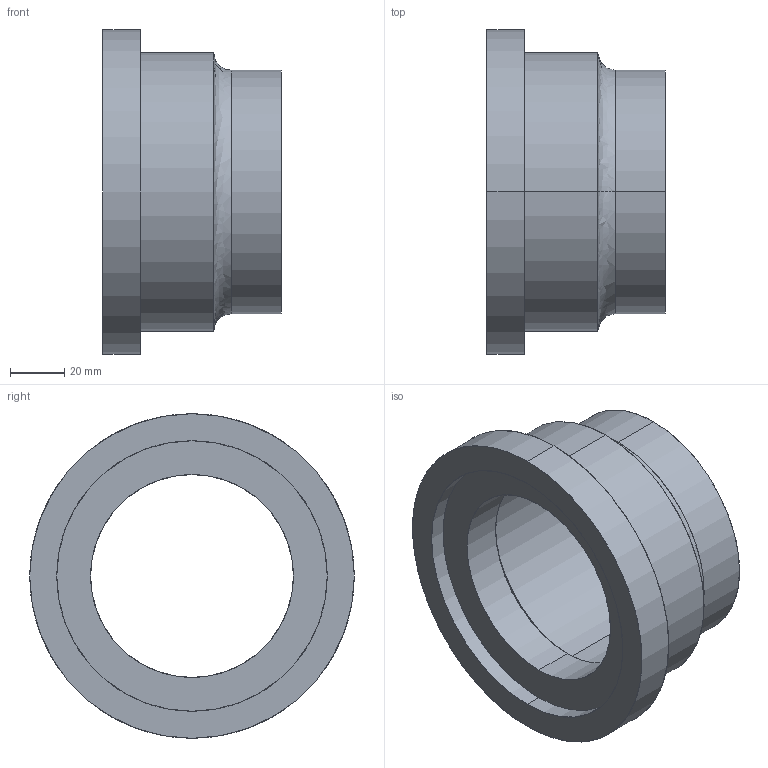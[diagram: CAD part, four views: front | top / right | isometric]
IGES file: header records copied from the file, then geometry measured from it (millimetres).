
Start section: SolidWorks IGES file using analytic representation for surfaces
Global section: file name: \\Datacenterrd1\@研發部\設計一課(冷媒)\(1)-文管中心\(2)-3D文管\(8)-Compressor 3Doutline(Surface)\Pipe\IGS\3 (3 1-8銅管用).IGS; native system: SolidWorks 2013; preprocessor: SolidWorks 2013; author: hedylu; date: 140715.090028; units: millimetre
Bounding box: 66 x 120 x 120 mm (x, y, z)
Surface area: 50267.2 mm2 (no closed solid volume)
Topology: 0 solids, 0 shells, 23 faces, 712 edges, 712 vertices
Faces by surface type: revolution 14, bspline 9
